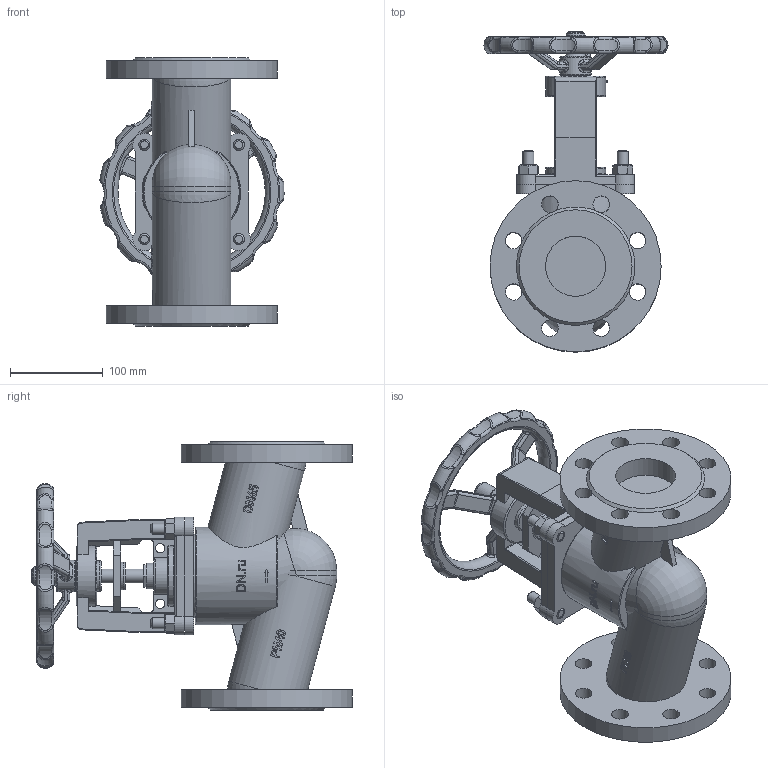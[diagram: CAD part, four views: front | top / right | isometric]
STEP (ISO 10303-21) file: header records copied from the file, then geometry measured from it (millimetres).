
FILE_DESCRIPTION(('STEP AP242'), '1');
FILE_NAME('VSO2130M-F-S 孰囡囗 玎镱痦 DN.ru 捏65 畜40', '2026-04-27T23:51:44', ('DN.ru'), (''), 'C3D Converter', 'C3D Toolkit', '');
FILE_SCHEMA(('AP242_MANAGED_MODEL_BASED_3D_ENGINEERING_MIM_LF { 1 0 10303 442 1 1 4 }'));
Length unit declared in the file: millimetre
Products named in the file (1): VSO2130M-F-S
Bounding box: 199.01 x 346.23 x 290 mm (x, y, z)
Volume: 3835213.7 mm3; surface area: 400590.2 mm2
Topology: 1 solids, 1 shells, 966 faces, 2510 edges, 1566 vertices
Faces by surface type: plane 293, extrusion 223, cylinder 195, torus 115, sphere 65, bspline 56, cone 19
Full cylindrical faces by diameter (mm): 0.5 x1, 1 x1, 2 x2, 10 x2, 12 x12, 15 x3, 18 x16, 20.325 x1, 28 x1, 30 x1, 32.5 x2, 33.875 x1, 65 x2, 85 x2, 90 x1, 105 x1, 185 x2
Entity records: 73371 total; most frequent: CARTESIAN_POINT 43706, ORIENTED_EDGE 4797, DIRECTION 3870, EDGE_CURVE 2399, VERTEX_POINT 1558, AXIS2_PLACEMENT_3D 1407, EDGE_LOOP 1144, VECTOR 1056
